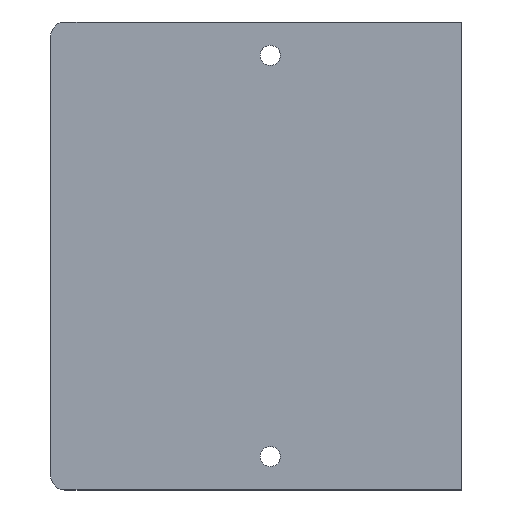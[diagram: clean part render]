
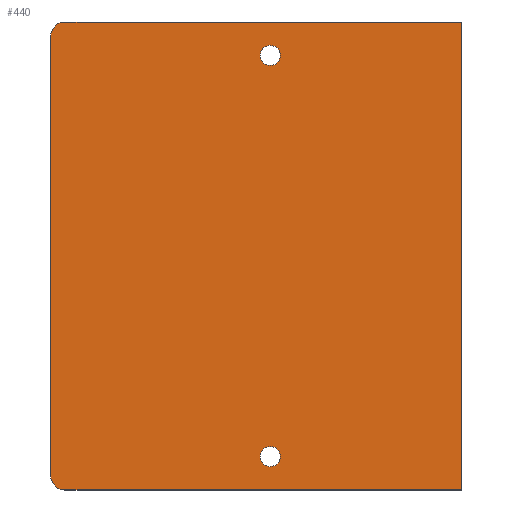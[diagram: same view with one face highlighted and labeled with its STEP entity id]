
A CAD part, top view. The second image highlights one B-rep face of the part: STEP entity #440.
In plain terms, the highlighted planar face has unit normal (0, 0, 1).
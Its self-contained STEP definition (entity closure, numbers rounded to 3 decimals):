
#24 = VERTEX_POINT('',#25);
#25 = CARTESIAN_POINT('',(0.,1.5,1.6));
#32 = CYLINDRICAL_SURFACE('',#33,1.5);
#33 = AXIS2_PLACEMENT_3D('',#34,#35,#36);
#34 = CARTESIAN_POINT('',(1.5,1.5,0.));
#35 = DIRECTION('',(-0.,-0.,-1.));
#36 = DIRECTION('',(-1.,0.,0.));
#44 = PLANE('',#45);
#45 = AXIS2_PLACEMENT_3D('',#46,#47,#48);
#46 = CARTESIAN_POINT('',(0.,47.5,0.));
#47 = DIRECTION('',(1.,0.,0.));
#48 = DIRECTION('',(0.,-1.,0.));
#56 = EDGE_CURVE('',#24,#57,#59,.T.);
#57 = VERTEX_POINT('',#58);
#58 = CARTESIAN_POINT('',(1.5,0.,1.6));
#59 = SURFACE_CURVE('',#60,(#65,#72),.PCURVE_S1.);
#60 = CIRCLE('',#61,1.5);
#61 = AXIS2_PLACEMENT_3D('',#62,#63,#64);
#62 = CARTESIAN_POINT('',(1.5,1.5,1.6));
#63 = DIRECTION('',(0.,0.,1.));
#64 = DIRECTION('',(-1.,0.,0.));
#65 = PCURVE('',#32,#66);
#66 = DEFINITIONAL_REPRESENTATION('',(#67),#71);
#67 = LINE('',#68,#69);
#68 = CARTESIAN_POINT('',(-0.,-1.6));
#69 = VECTOR('',#70,1.);
#70 = DIRECTION('',(-1.,0.));
#71 = ( GEOMETRIC_REPRESENTATION_CONTEXT(2) 
PARAMETRIC_REPRESENTATION_CONTEXT() REPRESENTATION_CONTEXT('2D SPACE',''
  ) );
#72 = PCURVE('',#73,#78);
#73 = PLANE('',#74);
#74 = AXIS2_PLACEMENT_3D('',#75,#76,#77);
#75 = CARTESIAN_POINT('',(21.66,24.5,1.6));
#76 = DIRECTION('',(0.,0.,1.));
#77 = DIRECTION('',(1.,0.,-0.));
#78 = DEFINITIONAL_REPRESENTATION('',(#79),#83);
#79 = CIRCLE('',#80,1.5);
#80 = AXIS2_PLACEMENT_2D('',#81,#82);
#81 = CARTESIAN_POINT('',(-20.16,-23.));
#82 = DIRECTION('',(-1.,0.));
#83 = ( GEOMETRIC_REPRESENTATION_CONTEXT(2) 
PARAMETRIC_REPRESENTATION_CONTEXT() REPRESENTATION_CONTEXT('2D SPACE',''
  ) );
#101 = PLANE('',#102);
#102 = AXIS2_PLACEMENT_3D('',#103,#104,#105);
#103 = CARTESIAN_POINT('',(1.5,0.,0.));
#104 = DIRECTION('',(0.,1.,0.));
#105 = DIRECTION('',(1.,0.,0.));
#146 = VERTEX_POINT('',#147);
#147 = CARTESIAN_POINT('',(0.,47.5,1.6));
#161 = CYLINDRICAL_SURFACE('',#162,1.5);
#162 = AXIS2_PLACEMENT_3D('',#163,#164,#165);
#163 = CARTESIAN_POINT('',(1.5,47.5,0.));
#164 = DIRECTION('',(-0.,-0.,-1.));
#165 = DIRECTION('',(0.,1.,-0.));
#173 = EDGE_CURVE('',#146,#24,#174,.T.);
#174 = SURFACE_CURVE('',#175,(#179,#186),.PCURVE_S1.);
#175 = LINE('',#176,#177);
#176 = CARTESIAN_POINT('',(0.,47.5,1.6));
#177 = VECTOR('',#178,1.);
#178 = DIRECTION('',(0.,-1.,0.));
#179 = PCURVE('',#44,#180);
#180 = DEFINITIONAL_REPRESENTATION('',(#181),#185);
#181 = LINE('',#182,#183);
#182 = CARTESIAN_POINT('',(0.,-1.6));
#183 = VECTOR('',#184,1.);
#184 = DIRECTION('',(1.,0.));
#185 = ( GEOMETRIC_REPRESENTATION_CONTEXT(2) 
PARAMETRIC_REPRESENTATION_CONTEXT() REPRESENTATION_CONTEXT('2D SPACE',''
  ) );
#186 = PCURVE('',#73,#187);
#187 = DEFINITIONAL_REPRESENTATION('',(#188),#192);
#188 = LINE('',#189,#190);
#189 = CARTESIAN_POINT('',(-21.66,23.));
#190 = VECTOR('',#191,1.);
#191 = DIRECTION('',(0.,-1.));
#192 = ( GEOMETRIC_REPRESENTATION_CONTEXT(2) 
PARAMETRIC_REPRESENTATION_CONTEXT() REPRESENTATION_CONTEXT('2D SPACE',''
  ) );
#220 = EDGE_CURVE('',#57,#221,#223,.T.);
#221 = VERTEX_POINT('',#222);
#222 = CARTESIAN_POINT('',(43.,0.,1.6));
#223 = SURFACE_CURVE('',#224,(#228,#235),.PCURVE_S1.);
#224 = LINE('',#225,#226);
#225 = CARTESIAN_POINT('',(1.5,0.,1.6));
#226 = VECTOR('',#227,1.);
#227 = DIRECTION('',(1.,0.,0.));
#228 = PCURVE('',#101,#229);
#229 = DEFINITIONAL_REPRESENTATION('',(#230),#234);
#230 = LINE('',#231,#232);
#231 = CARTESIAN_POINT('',(0.,-1.6));
#232 = VECTOR('',#233,1.);
#233 = DIRECTION('',(1.,0.));
#234 = ( GEOMETRIC_REPRESENTATION_CONTEXT(2) 
PARAMETRIC_REPRESENTATION_CONTEXT() REPRESENTATION_CONTEXT('2D SPACE',''
  ) );
#235 = PCURVE('',#73,#236);
#236 = DEFINITIONAL_REPRESENTATION('',(#237),#241);
#237 = LINE('',#238,#239);
#238 = CARTESIAN_POINT('',(-20.16,-24.5));
#239 = VECTOR('',#240,1.);
#240 = DIRECTION('',(1.,0.));
#241 = ( GEOMETRIC_REPRESENTATION_CONTEXT(2) 
PARAMETRIC_REPRESENTATION_CONTEXT() REPRESENTATION_CONTEXT('2D SPACE',''
  ) );
#259 = PLANE('',#260);
#260 = AXIS2_PLACEMENT_3D('',#261,#262,#263);
#261 = CARTESIAN_POINT('',(43.,0.,0.));
#262 = DIRECTION('',(-1.,0.,0.));
#263 = DIRECTION('',(0.,1.,0.));
#336 = PLANE('',#337);
#337 = AXIS2_PLACEMENT_3D('',#338,#339,#340);
#338 = CARTESIAN_POINT('',(43.,49.,0.));
#339 = DIRECTION('',(0.,-1.,0.));
#340 = DIRECTION('',(-1.,0.,0.));
#394 = CYLINDRICAL_SURFACE('',#395,1.05);
#395 = AXIS2_PLACEMENT_3D('',#396,#397,#398);
#396 = CARTESIAN_POINT('',(23.,3.5,1.6));
#397 = DIRECTION('',(0.,0.,-1.));
#398 = DIRECTION('',(-1.,0.,0.));
#429 = CYLINDRICAL_SURFACE('',#430,1.05);
#430 = AXIS2_PLACEMENT_3D('',#431,#432,#433);
#431 = CARTESIAN_POINT('',(23.,45.5,1.6));
#432 = DIRECTION('',(0.,0.,-1.));
#433 = DIRECTION('',(-1.,0.,0.));
#440 = ADVANCED_FACE('',(#441,#514,#544),#73,.T.);
#441 = FACE_BOUND('',#442,.T.);
#442 = EDGE_LOOP('',(#443,#444,#445,#468,#491,#513));
#443 = ORIENTED_EDGE('',*,*,#56,.T.);
#444 = ORIENTED_EDGE('',*,*,#220,.T.);
#445 = ORIENTED_EDGE('',*,*,#446,.T.);
#446 = EDGE_CURVE('',#221,#447,#449,.T.);
#447 = VERTEX_POINT('',#448);
#448 = CARTESIAN_POINT('',(43.,49.,1.6));
#449 = SURFACE_CURVE('',#450,(#454,#461),.PCURVE_S1.);
#450 = LINE('',#451,#452);
#451 = CARTESIAN_POINT('',(43.,0.,1.6));
#452 = VECTOR('',#453,1.);
#453 = DIRECTION('',(0.,1.,0.));
#454 = PCURVE('',#73,#455);
#455 = DEFINITIONAL_REPRESENTATION('',(#456),#460);
#456 = LINE('',#457,#458);
#457 = CARTESIAN_POINT('',(21.34,-24.5));
#458 = VECTOR('',#459,1.);
#459 = DIRECTION('',(0.,1.));
#460 = ( GEOMETRIC_REPRESENTATION_CONTEXT(2) 
PARAMETRIC_REPRESENTATION_CONTEXT() REPRESENTATION_CONTEXT('2D SPACE',''
  ) );
#461 = PCURVE('',#259,#462);
#462 = DEFINITIONAL_REPRESENTATION('',(#463),#467);
#463 = LINE('',#464,#465);
#464 = CARTESIAN_POINT('',(0.,-1.6));
#465 = VECTOR('',#466,1.);
#466 = DIRECTION('',(1.,0.));
#467 = ( GEOMETRIC_REPRESENTATION_CONTEXT(2) 
PARAMETRIC_REPRESENTATION_CONTEXT() REPRESENTATION_CONTEXT('2D SPACE',''
  ) );
#468 = ORIENTED_EDGE('',*,*,#469,.T.);
#469 = EDGE_CURVE('',#447,#470,#472,.T.);
#470 = VERTEX_POINT('',#471);
#471 = CARTESIAN_POINT('',(1.5,49.,1.6));
#472 = SURFACE_CURVE('',#473,(#477,#484),.PCURVE_S1.);
#473 = LINE('',#474,#475);
#474 = CARTESIAN_POINT('',(43.,49.,1.6));
#475 = VECTOR('',#476,1.);
#476 = DIRECTION('',(-1.,0.,0.));
#477 = PCURVE('',#73,#478);
#478 = DEFINITIONAL_REPRESENTATION('',(#479),#483);
#479 = LINE('',#480,#481);
#480 = CARTESIAN_POINT('',(21.34,24.5));
#481 = VECTOR('',#482,1.);
#482 = DIRECTION('',(-1.,0.));
#483 = ( GEOMETRIC_REPRESENTATION_CONTEXT(2) 
PARAMETRIC_REPRESENTATION_CONTEXT() REPRESENTATION_CONTEXT('2D SPACE',''
  ) );
#484 = PCURVE('',#336,#485);
#485 = DEFINITIONAL_REPRESENTATION('',(#486),#490);
#486 = LINE('',#487,#488);
#487 = CARTESIAN_POINT('',(0.,-1.6));
#488 = VECTOR('',#489,1.);
#489 = DIRECTION('',(1.,0.));
#490 = ( GEOMETRIC_REPRESENTATION_CONTEXT(2) 
PARAMETRIC_REPRESENTATION_CONTEXT() REPRESENTATION_CONTEXT('2D SPACE',''
  ) );
#491 = ORIENTED_EDGE('',*,*,#492,.T.);
#492 = EDGE_CURVE('',#470,#146,#493,.T.);
#493 = SURFACE_CURVE('',#494,(#499,#506),.PCURVE_S1.);
#494 = CIRCLE('',#495,1.5);
#495 = AXIS2_PLACEMENT_3D('',#496,#497,#498);
#496 = CARTESIAN_POINT('',(1.5,47.5,1.6));
#497 = DIRECTION('',(0.,0.,1.));
#498 = DIRECTION('',(0.,1.,-0.));
#499 = PCURVE('',#73,#500);
#500 = DEFINITIONAL_REPRESENTATION('',(#501),#505);
#501 = CIRCLE('',#502,1.5);
#502 = AXIS2_PLACEMENT_2D('',#503,#504);
#503 = CARTESIAN_POINT('',(-20.16,23.));
#504 = DIRECTION('',(0.,1.));
#505 = ( GEOMETRIC_REPRESENTATION_CONTEXT(2) 
PARAMETRIC_REPRESENTATION_CONTEXT() REPRESENTATION_CONTEXT('2D SPACE',''
  ) );
#506 = PCURVE('',#161,#507);
#507 = DEFINITIONAL_REPRESENTATION('',(#508),#512);
#508 = LINE('',#509,#510);
#509 = CARTESIAN_POINT('',(-0.,-1.6));
#510 = VECTOR('',#511,1.);
#511 = DIRECTION('',(-1.,0.));
#512 = ( GEOMETRIC_REPRESENTATION_CONTEXT(2) 
PARAMETRIC_REPRESENTATION_CONTEXT() REPRESENTATION_CONTEXT('2D SPACE',''
  ) );
#513 = ORIENTED_EDGE('',*,*,#173,.T.);
#514 = FACE_BOUND('',#515,.T.);
#515 = EDGE_LOOP('',(#516));
#516 = ORIENTED_EDGE('',*,*,#517,.T.);
#517 = EDGE_CURVE('',#518,#518,#520,.T.);
#518 = VERTEX_POINT('',#519);
#519 = CARTESIAN_POINT('',(21.95,3.5,1.6));
#520 = SURFACE_CURVE('',#521,(#526,#537),.PCURVE_S1.);
#521 = CIRCLE('',#522,1.05);
#522 = AXIS2_PLACEMENT_3D('',#523,#524,#525);
#523 = CARTESIAN_POINT('',(23.,3.5,1.6));
#524 = DIRECTION('',(0.,0.,-1.));
#525 = DIRECTION('',(-1.,0.,0.));
#526 = PCURVE('',#73,#527);
#527 = DEFINITIONAL_REPRESENTATION('',(#528),#536);
#528 = ( BOUNDED_CURVE() B_SPLINE_CURVE(2,(#529,#530,#531,#532,#533,#534
,#535),.UNSPECIFIED.,.T.,.F.) B_SPLINE_CURVE_WITH_KNOTS((1,2,2,2,2,1),(
    -2.094,0.,2.094,4.189,6.283,
8.378),.UNSPECIFIED.) CURVE() GEOMETRIC_REPRESENTATION_ITEM() 
RATIONAL_B_SPLINE_CURVE((1.,0.5,1.,0.5,1.,0.5,1.)) REPRESENTATION_ITEM(
  '') );
#529 = CARTESIAN_POINT('',(0.29,-21.));
#530 = CARTESIAN_POINT('',(0.29,-19.181));
#531 = CARTESIAN_POINT('',(1.865,-20.091));
#532 = CARTESIAN_POINT('',(3.44,-21.));
#533 = CARTESIAN_POINT('',(1.865,-21.909));
#534 = CARTESIAN_POINT('',(0.29,-22.819));
#535 = CARTESIAN_POINT('',(0.29,-21.));
#536 = ( GEOMETRIC_REPRESENTATION_CONTEXT(2) 
PARAMETRIC_REPRESENTATION_CONTEXT() REPRESENTATION_CONTEXT('2D SPACE',''
  ) );
#537 = PCURVE('',#394,#538);
#538 = DEFINITIONAL_REPRESENTATION('',(#539),#543);
#539 = LINE('',#540,#541);
#540 = CARTESIAN_POINT('',(0.,0.));
#541 = VECTOR('',#542,1.);
#542 = DIRECTION('',(1.,0.));
#543 = ( GEOMETRIC_REPRESENTATION_CONTEXT(2) 
PARAMETRIC_REPRESENTATION_CONTEXT() REPRESENTATION_CONTEXT('2D SPACE',''
  ) );
#544 = FACE_BOUND('',#545,.T.);
#545 = EDGE_LOOP('',(#546));
#546 = ORIENTED_EDGE('',*,*,#547,.T.);
#547 = EDGE_CURVE('',#548,#548,#550,.T.);
#548 = VERTEX_POINT('',#549);
#549 = CARTESIAN_POINT('',(21.95,45.5,1.6));
#550 = SURFACE_CURVE('',#551,(#556,#567),.PCURVE_S1.);
#551 = CIRCLE('',#552,1.05);
#552 = AXIS2_PLACEMENT_3D('',#553,#554,#555);
#553 = CARTESIAN_POINT('',(23.,45.5,1.6));
#554 = DIRECTION('',(0.,0.,-1.));
#555 = DIRECTION('',(-1.,0.,0.));
#556 = PCURVE('',#73,#557);
#557 = DEFINITIONAL_REPRESENTATION('',(#558),#566);
#558 = ( BOUNDED_CURVE() B_SPLINE_CURVE(2,(#559,#560,#561,#562,#563,#564
,#565),.UNSPECIFIED.,.T.,.F.) B_SPLINE_CURVE_WITH_KNOTS((1,2,2,2,2,1),(
    -2.094,0.,2.094,4.189,6.283,
8.378),.UNSPECIFIED.) CURVE() GEOMETRIC_REPRESENTATION_ITEM() 
RATIONAL_B_SPLINE_CURVE((1.,0.5,1.,0.5,1.,0.5,1.)) REPRESENTATION_ITEM(
  '') );
#559 = CARTESIAN_POINT('',(0.29,21.));
#560 = CARTESIAN_POINT('',(0.29,22.819));
#561 = CARTESIAN_POINT('',(1.865,21.909));
#562 = CARTESIAN_POINT('',(3.44,21.));
#563 = CARTESIAN_POINT('',(1.865,20.091));
#564 = CARTESIAN_POINT('',(0.29,19.181));
#565 = CARTESIAN_POINT('',(0.29,21.));
#566 = ( GEOMETRIC_REPRESENTATION_CONTEXT(2) 
PARAMETRIC_REPRESENTATION_CONTEXT() REPRESENTATION_CONTEXT('2D SPACE',''
  ) );
#567 = PCURVE('',#429,#568);
#568 = DEFINITIONAL_REPRESENTATION('',(#569),#573);
#569 = LINE('',#570,#571);
#570 = CARTESIAN_POINT('',(0.,0.));
#571 = VECTOR('',#572,1.);
#572 = DIRECTION('',(1.,0.));
#573 = ( GEOMETRIC_REPRESENTATION_CONTEXT(2) 
PARAMETRIC_REPRESENTATION_CONTEXT() REPRESENTATION_CONTEXT('2D SPACE',''
  ) );
